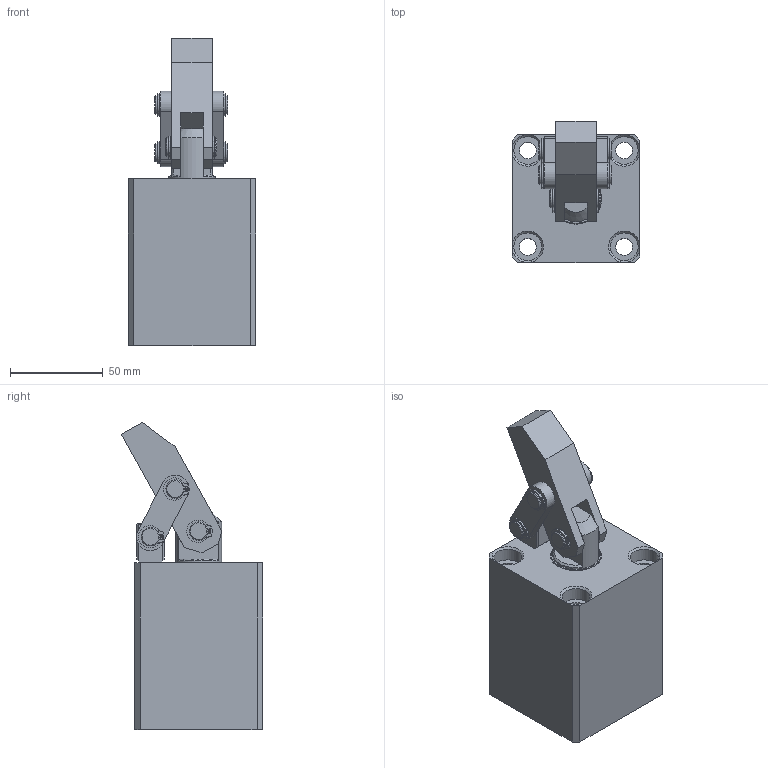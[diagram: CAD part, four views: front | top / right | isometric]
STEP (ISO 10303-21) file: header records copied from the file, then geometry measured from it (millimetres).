
FILE_DESCRIPTION(/* description */ ('','CAx-IF Rec.Pracs.---Representation and Presentation of Product Manufacturing Information (PMI)---4.0---2014-10-13'),/* implementation_level */ '2;1');
FILE_NAME(/* name */ 'HMSA_40_R v4.step',/* time_stamp */ '2025-02-01T20:20:51+03:00',/* author */ (''),/* organization */ (''),/* preprocessor_version */ 'ST-DEVELOPER v20',/* originating_system */ 'Autodesk Translation Framework v13.20.0.188',/* authorisation */ '');
FILE_SCHEMA (('AP242_MANAGED_MODEL_BASED_3D_ENGINEERING_MIM_LF { 1 0 10303 442 1 1 4 }'));
Length unit declared in the file: millimetre
Products named in the file (15): HMSA_40_R; HMSA_40_GOVDE; HMSA_25_K.MIL; HMSA_40_kece_yatagý; K15-32_5X40X3_2; K06-25X33_6X5_3X7; K22-25X35X6; 25_28_PAP_25_05; HMSA_40_ARK_KAPAK; kaynaklý_mafsal_lama; BASKI_LAMASI; Q10_PÝM_1; MAFSAL_1; Q10_PÝM_2; heavy duty external retaining ring_am_B27.8M - 3DM1-10
Assembly tree (21 placements, depth 2):
  HMSA_40_R
    HMSA_40_GOVDE
    HMSA_25_K.MIL
    HMSA_40_kece_yatagý
    K15-32_5X40X3_2
    K06-25X33_6X5_3X7
    K22-25X35X6
    25_28_PAP_25_05
    HMSA_40_ARK_KAPAK
    kaynaklý_mafsal_lama
    MAFSAL_1  x2
    BASKI_LAMASI
    Q10_PÝM_1
    heavy duty external retaining ring_am_B27.8M - 3DM1-10  x6
    Q10_PÝM_2  x2
Bounding box: 69 x 76.16 x 165.67 mm (x, y, z)
Volume: 423346.5 mm3; surface area: 107652 mm2
Topology: 22 solids, 22 shells, 880 faces, 2184 edges, 1431 vertices
Faces by surface type: plane 341, bspline 243, cylinder 213, cone 74, torus 9
Full cylindrical faces by diameter (mm): 1 x13, 2 x1, 3 x2, 5 x4, 9 x4, 9.4 x6, 9.835 x8, 10 x9, 10.5 x9, 12 x10, 15 x4, 16 x1, 18 x1, 25 x3, 25.5 x2, 25.6 x1, 26.6 x1, 27 x1, 28 x2, 30 x1, 31.875 x1, 32.5 x1, 33.6 x2, 35 x3, 36 x1, 36.023 x2, 36.3 x1, 39.5 x3, 40 x2, 42 x3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
Entity records: 28547 total; most frequent: CARTESIAN_POINT 10783, ORIENTED_EDGE 3872, DIRECTION 2951, EDGE_CURVE 1936, VERTEX_POINT 1266, LINE 997, VECTOR 997, AXIS2_PLACEMENT_3D 977
